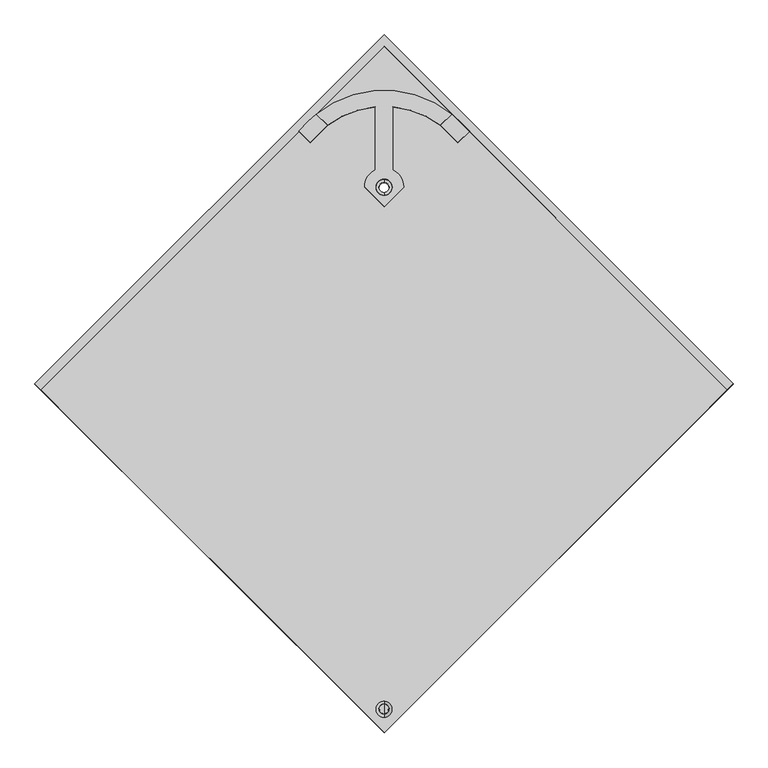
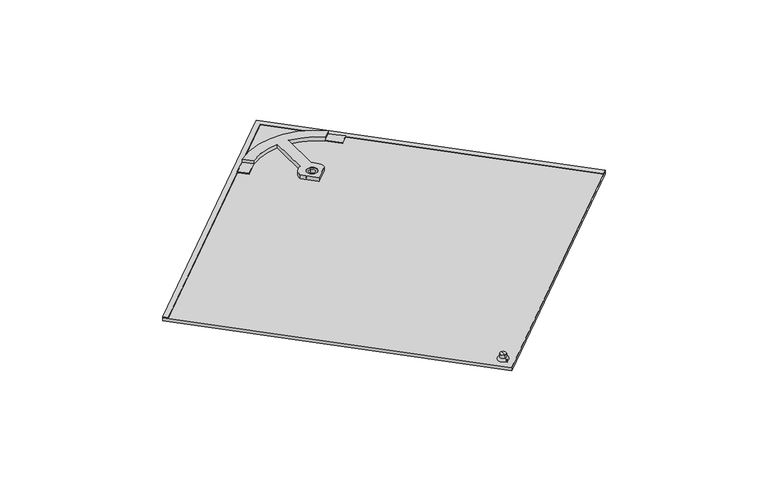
"""IFC4 building model written with IfcOpenShell, lengths in millimetres: proxy geometry, Roofing_Panels_SunStyle_Tile_Shingle-Customisable : Shingle Customisable - Black."""

import ifcopenshell
import ifcopenshell.guid

model = None  # the IFC model being written
_history = None  # IfcOwnerHistory: only IFC2X3 demands one
_inside = {}  # id of a spatial element -> (the spatial element, [elements in it])
_under = {}  # id of a project, library or spatial element -> (it, [spatial elements below it])
_declared = {}  # id of a project -> (the project, [libraries it declares])
_typed = {}  # id of a type object -> (the type object, [elements of that type])
_made_of = {}  # id of a material, layer set ... -> (it, [elements and type objects made of it])


def new_model(schema):
    """Start an empty IFC model of exactly this schema.

    Asked for "IFC4X3", IfcOpenShell would pick the latest addendum, in which some entities
    have other attributes; the version numbers below select the first issue.
    IFC2X3 requires an IfcOwnerHistory on every rooted entity: one is made here for all.
    """
    global model, _history
    if schema == "IFC4X3":
        model = ifcopenshell.file(schema_version=(4, 3, 0, 0))
    else:
        model = ifcopenshell.file(schema=schema)
    _inside.clear()
    _under.clear()
    _declared.clear()
    _typed.clear()
    _made_of.clear()
    _history = None
    if model.schema == "IFC2X3":
        org = make("IfcOrganization", Name="unknown")
        user = make(
            "IfcPersonAndOrganization",
            ThePerson=make("IfcPerson", FamilyName="unknown"),
            TheOrganization=org,
        )
        app = make(
            "IfcApplication",
            ApplicationDeveloper=org,
            Version="unknown",
            ApplicationFullName="unknown",
            ApplicationIdentifier="unknown",
        )
        _history = make(
            "IfcOwnerHistory",
            OwningUser=user,
            OwningApplication=app,
            ChangeAction="ADDED",
            CreationDate=0,
        )
    return model


def make(cls, **values):
    """One entity of the class cls with the attributes given. An attribute that is None is left unset."""
    return model.create_entity(
        cls, **{name: value for name, value in values.items() if value is not None}
    )


def rooted(cls, **values):
    """An entity with a GlobalId (a new one), such as an element, a storey or a relation."""
    return make(cls, GlobalId=ifcopenshell.guid.new(), OwnerHistory=_history, **values)


def si_unit(unit_type, name, prefix=None):
    """IfcSIUnit, for example si_unit("LENGTHUNIT", "METRE", prefix="MILLI")."""
    return make("IfcSIUnit", UnitType=unit_type, Prefix=prefix, Name=name)


def assignment(units):
    """IfcUnitAssignment: the units of a project."""
    return None if units is None else make("IfcUnitAssignment", Units=units)


def point(xyz):
    """IfcCartesianPoint."""
    return None if xyz is None else make("IfcCartesianPoint", Coordinates=xyz)


def direction(xyz):
    """IfcDirection."""
    return None if xyz is None else make("IfcDirection", DirectionRatios=xyz)


def frame(location, z_axis=None, x_axis=None):
    """IfcAxis2Placement3D, a coordinate frame: its origin and axes. An axis left out is left unset."""
    return make(
        "IfcAxis2Placement3D",
        Location=point(location),
        Axis=direction(z_axis),
        RefDirection=direction(x_axis),
    )


def frame_2d(location, x_axis=None):
    """IfcAxis2Placement2D, a coordinate frame in the plane: its origin and x axis."""
    return make(
        "IfcAxis2Placement2D", Location=point(location), RefDirection=direction(x_axis)
    )


def origin():
    """The frame at (0, 0, 0) with its axes left unset."""
    return frame((0.0, 0.0, 0.0))


def place(relative_to, where):
    """IfcLocalPlacement: puts the frame where relative to a parent placement (None: the world)."""
    return make(
        "IfcLocalPlacement", PlacementRelTo=relative_to, RelativePlacement=where
    )


def context(
    kind, dimensions, precision=None, world=None, true_north=None, identifier=None
):
    """IfcGeometricRepresentationContext, for example the 3D "Model" context."""
    return make(
        "IfcGeometricRepresentationContext",
        ContextIdentifier=identifier,
        ContextType=kind,
        CoordinateSpaceDimension=dimensions,
        Precision=precision,
        WorldCoordinateSystem=world,
        TrueNorth=true_north,
    )


def project(units=None, contexts=None):
    """IfcProject with its units and contexts."""
    return rooted(
        "IfcProject",
        Name="project",
        RepresentationContexts=contexts,
        UnitsInContext=assignment(units),
    )


def spatial(cls, under=None, at=None, **own):
    """A site, building, storey or space (cls), placed at a placement, below another one or the project."""
    s = rooted(cls, ObjectPlacement=at, **own)
    if under is not None:
        _under.setdefault(under.id(), (under, []))[1].append(s)
    return s


def polyline(points):
    """IfcPolyline through the points."""
    return make("IfcPolyline", Points=[point(p) for p in points])


def circle_curve(where, radius):
    """IfcCircle in the frame where."""
    return make("IfcCircle", Position=where, Radius=radius)


def ellipse_curve(where, semi_axis1, semi_axis2):
    """IfcEllipse in the frame where."""
    return make(
        "IfcEllipse", Position=where, SemiAxis1=semi_axis1, SemiAxis2=semi_axis2
    )


def trimmed(basis, trim1, trim2, sense, master):
    """IfcTrimmedCurve: the piece of a basis curve between two trims."""
    return make(
        "IfcTrimmedCurve",
        BasisCurve=basis,
        Trim1=trim1,
        Trim2=trim2,
        SenseAgreement=sense,
        MasterRepresentation=master,
    )


def segment(curve, same_sense, transition):
    """IfcCompositeCurveSegment."""
    return make(
        "IfcCompositeCurveSegment",
        Transition=transition,
        SameSense=same_sense,
        ParentCurve=curve,
    )


def composite_curve(segments, self_intersect=None):
    """IfcCompositeCurve: segments joined end to end."""
    return make("IfcCompositeCurve", Segments=segments, SelfIntersect=self_intersect)


def outline(outer, holes=None, kind="AREA"):
    """IfcArbitraryClosedProfileDef: a profile drawn as a closed curve; with holes, ...WithVoids."""
    if holes is None:
        return make("IfcArbitraryClosedProfileDef", ProfileType=kind, OuterCurve=outer)
    return make(
        "IfcArbitraryProfileDefWithVoids",
        ProfileType=kind,
        OuterCurve=outer,
        InnerCurves=holes,
    )


def extrude(swept, where, along, depth):
    """IfcExtrudedAreaSolid: the profile swept, set in the frame where, extruded along a direction by depth."""
    return make(
        "IfcExtrudedAreaSolid",
        SweptArea=swept,
        Position=where,
        ExtrudedDirection=direction(along),
        Depth=depth,
    )


def shape(context_of_items, identifier, shape_type, items):
    """IfcShapeRepresentation: the items that make up one representation, for example the "Body"."""
    return make(
        "IfcShapeRepresentation",
        ContextOfItems=context_of_items,
        RepresentationIdentifier=identifier,
        RepresentationType=shape_type,
        Items=items,
    )


def source(mapping_origin, context_of_items, identifier, shape_type, items):
    """IfcRepresentationMap: a shape defined once, which mapped items show again and again."""
    return make(
        "IfcRepresentationMap",
        MappingOrigin=mapping_origin,
        MappedRepresentation=shape(context_of_items, identifier, shape_type, items),
    )


def transform(
    local_origin,
    x_axis=None,
    y_axis=None,
    z_axis=None,
    scale=None,
    scale2=None,
    scale3=None,
    uniform=True,
):
    """IfcCartesianTransformationOperator3D, or its non-uniform kind. x_axis, y_axis, z_axis: its Axis1, 2, 3."""
    if uniform:
        return make(
            "IfcCartesianTransformationOperator3D",
            Axis1=direction(x_axis),
            Axis2=direction(y_axis),
            LocalOrigin=point(local_origin),
            Scale=scale,
            Axis3=direction(z_axis),
        )
    return make(
        "IfcCartesianTransformationOperator3DnonUniform",
        Axis1=direction(x_axis),
        Axis2=direction(y_axis),
        LocalOrigin=point(local_origin),
        Scale=scale,
        Axis3=direction(z_axis),
        Scale2=scale2,
        Scale3=scale3,
    )


def mapped(mapping_source, mapping_target):
    """IfcMappedItem: shows the shape of a source again, moved by a transform."""
    return make(
        "IfcMappedItem", MappingSource=mapping_source, MappingTarget=mapping_target
    )


def made_of(thing, what):
    """Note that an element or type object is made of a material, layer set ...; save() writes the relation."""
    if what is not None:
        _made_of.setdefault(what.id(), (what, []))[1].append(thing)
    return thing


def element(
    cls,
    number,
    at=None,
    inside=None,
    cuts=None,
    type_object=None,
    material=None,
    context=None,
    identifier="Body",
    shape_type=None,
    held_by="IfcProductDefinitionShape",
    body=None,
    shapes=None,
    **own,
):
    """One element of the class cls, such as IfcWall. Its Tag is "e" and its number.

    at: its placement. inside: the storey or other place that contains it. cuts: it is an
    opening in that element (IfcRelVoidsElement). A single representation is given by context,
    identifier, shape_type and body (its items); several are given by shapes. held_by: the class
    of the entity that holds the representations. save() writes the other relations.
    """
    e = rooted(cls, Tag="e%d" % number, ObjectPlacement=at, **own)
    if body is not None:
        shapes = [shape(context, identifier, shape_type, body)]
    if shapes is not None:
        e.Representation = make(held_by, Representations=shapes)
    if inside is not None:
        _inside.setdefault(inside.id(), (inside, []))[1].append(e)
    if cuts is not None:
        rooted(
            "IfcRelVoidsElement", RelatingBuildingElement=cuts, RelatedOpeningElement=e
        )
    if type_object is not None:
        _typed.setdefault(type_object.id(), (type_object, []))[1].append(e)
    return made_of(e, material)


def aggregate(whole, parts):
    """IfcRelAggregates: a whole, such as a stair, and the parts it consists of."""
    return rooted("IfcRelAggregates", RelatingObject=whole, RelatedObjects=parts)


def save(model, path):
    """Write the relations noted so far, then the file.

    IfcRelAggregates (storeys below a building ...), IfcRelContainedInSpatialStructure (elements
    in a storey), IfcRelDefinesByType, IfcRelAssociatesMaterial and IfcRelDeclares: one each for
    every whole, place, type object, material and project.
    """
    for whole, parts in _under.values():
        aggregate(whole, parts)
    for where, things in _inside.values():
        rooted(
            "IfcRelContainedInSpatialStructure",
            RelatedElements=things,
            RelatingStructure=where,
        )
    for kind, things in _typed.values():
        rooted("IfcRelDefinesByType", RelatedObjects=things, RelatingType=kind)
    for what, things in _made_of.values():
        rooted("IfcRelAssociatesMaterial", RelatedObjects=things, RelatingMaterial=what)
    for by, libraries in _declared.values():
        rooted("IfcRelDeclares", RelatingContext=by, RelatedDefinitions=libraries)
    model.write(path)


def plane_surface(at):
    """IfcPlane: the flat surface through the origin of the frame at, square to its z axis."""
    return make("IfcPlane", Position=at)


def cylinder_surface(at, radius):
    """IfcCylindricalSurface: all points at the distance radius from the z axis of the frame at."""
    return make("IfcCylindricalSurface", Position=at, Radius=radius)


def revolved_surface(curve, axis_point, axis_direction):
    """IfcSurfaceOfRevolution: the curve turned about the line through axis_point along axis_direction."""
    return make(
        "IfcSurfaceOfRevolution",
        SweptCurve=make("IfcArbitraryOpenProfileDef", ProfileType="CURVE", Curve=curve),
        AxisPosition=make("IfcAxis1Placement", Location=point(axis_point), Axis=direction(axis_direction)),
    )


def advanced_brep(points, edges, surfaces, faces):
    """IfcAdvancedBrep: a solid bounded by faces that lie on surfaces and meet in shared edges.

    An edge is (start, end): straight between two places in points (the first is 0);
    or (start, end, curve); or (start, end, curve, False) where it runs against its curve.
    A face is (place in surfaces, loops), or (place, loops, False) where it looks against
    its surface's normal. A loop lists edges by number (the first is 1), with a minus sign
    where the edge is run from its end to its start. The first loop is the outer one.
    """
    corners = [point(p) for p in points]
    vertices = [make("IfcVertexPoint", VertexGeometry=c) for c in corners]
    made = []
    for start, end, *more in edges:
        made.append(
            make(
                "IfcEdgeCurve",
                EdgeStart=vertices[start],
                EdgeEnd=vertices[end],
                EdgeGeometry=more[0] if more else make("IfcPolyline", Points=[corners[start], corners[end]]),
                SameSense=more[1] if len(more) > 1 else True,
            )
        )
    hull = []
    for where, loops, *sense in faces:
        bounds = []
        for j, loop in enumerate(loops):
            ring = [make("IfcOrientedEdge", EdgeElement=made[abs(k) - 1], Orientation=k > 0) for k in loop]
            bounds.append(
                make(
                    "IfcFaceOuterBound" if j == 0 else "IfcFaceBound",
                    Bound=make("IfcEdgeLoop", EdgeList=ring),
                    Orientation=True,
                )
            )
        hull.append(make("IfcAdvancedFace", Bounds=bounds, FaceSurface=surfaces[where], SameSense=sense[0] if sense else True))
    return make("IfcAdvancedBrep", Outer=make("IfcClosedShell", CfsFaces=hull))


def generic_models_13d44858(model_context):
    return source(origin(), model_context, "Body", "SolidModel", [
        advanced_brep(
        [(0.0, -497.8894675, 26.2215343), (0.0, -484.556387, 25.9982384), (0.0, -484.9246961, 4.0063691), (0.0, -498.2577766, 4.229665), (0.0, -503.3886964, 26.3136327), (0.0, -479.0571582, 25.90614), (0.0, -498.4397001, 31.2274395), (0.0, -483.8388371, 30.9829114), (0.0, -491.0052401, 39.1080636), (0.0, -483.7048087, 38.9857996), (0.0, -498.3056716, 39.2303277), (0.0, -491.5912364, 4.118017)],
        [
            (0, 1, circle_curve(frame((0.0, -491.2229273, 26.1098864), z_axis=(0.0, -0.016745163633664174, -0.9998597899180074), x_axis=(0.0, 0.9998597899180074, -0.016745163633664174)), 6.6674751)),
            (1, 2),
            (2, 3, circle_curve(frame((0.0, -491.5912364, 4.118017), z_axis=(0.0, 0.016745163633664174, 0.9998597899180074), x_axis=(0.0, 0.9998597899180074, -0.016745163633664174)), 6.6674751)),
            (3, 0),
            (1, 0, circle_curve(frame((0.0, -491.2229273, 26.1098864), z_axis=(0.0, -0.016745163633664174, -0.9998597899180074), x_axis=(0.0, 0.9998597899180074, -0.016745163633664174)), 6.6674751)),
            (3, 2, circle_curve(frame((0.0, -491.5912364, 4.118017), z_axis=(0.0, 0.016745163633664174, 0.9998597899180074), x_axis=(0.0, 0.9998597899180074, -0.016745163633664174)), 6.6674751)),
            (4, 5, circle_curve(frame((0.0, -491.2229273, 26.1098864), z_axis=(0.0, -0.016745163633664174, -0.9998597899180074), x_axis=(0.0, 0.9998597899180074, -0.016745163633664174)), 12.1674751)),
            (5, 1),
            (0, 4),
            (5, 4, circle_curve(frame((0.0, -491.2229273, 26.1098864), z_axis=(0.0, -0.016745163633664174, -0.9998597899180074), x_axis=(0.0, 0.9998597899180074, -0.016745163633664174)), 12.1674751)),
            (6, 7, circle_curve(frame((0.0, -491.1392686, 31.1051755), z_axis=(0.0, -0.016745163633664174, -0.9998597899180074), x_axis=(0.0, 0.9998597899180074, -0.016745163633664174)), 7.3014552)),
            (7, 5, circle_curve(frame((0.0, -484.1430351, 25.90614), z_axis=(-1.0, 0.0, 0.0), x_axis=(0.0, -1.0, 0.0)), 5.0858769)),
            (4, 6, circle_curve(frame((0.0, -498.3056716, 26.1433289), z_axis=(-1.0, 0.0, 0.0), x_axis=(0.0, 0.9994391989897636, -0.03348563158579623)), 5.0858769)),
            (7, 6, circle_curve(frame((0.0, -491.1392686, 31.1051755), z_axis=(0.0, -0.016745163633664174, -0.9998597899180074), x_axis=(0.0, 0.9998597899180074, -0.016745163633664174)), 7.3014552)),
            (8, 9),
            (9, 10, circle_curve(frame((0.0, -491.0052401, 39.1080636), z_axis=(0.0, 0.016745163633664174, 0.9998597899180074), x_axis=(0.0, 0.9998597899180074, -0.016745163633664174)), 7.3014552)),
            (10, 8),
            (10, 9, circle_curve(frame((0.0, -491.0052401, 39.1080636), z_axis=(0.0, 0.016745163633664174, 0.9998597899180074), x_axis=(0.0, 0.9998597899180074, -0.016745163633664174)), 7.3014552)),
            (2, 11),
            (11, 3),
            (9, 7),
            (6, 10),
        ],
        [
            cylinder_surface(frame((0.0, -491.0052401, 39.1080636), z_axis=(0.0, 0.016745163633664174, 0.9998597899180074), x_axis=(0.0, 0.9998597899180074, -0.016745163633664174)), 6.6674751),
            plane_surface(frame((0.0, -491.2229273, 26.1098864), z_axis=(0.0, -0.016745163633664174, -0.9998597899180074), x_axis=(0.0, 0.9998597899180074, -0.016745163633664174))),
            revolved_surface(trimmed(ellipse_curve(frame((0.0, -484.1430351, 25.90614), z_axis=(1.0, 0.0, 0.0), x_axis=(0.0, -1.0, 0.0)), 5.0858769, 5.0858769), [point((0.0, -479.0571582, 25.90614))], [point((0.0, -483.8388371, 30.9829114))], True, "CARTESIAN"), (0.0, -491.0052401, 39.1080636), (0.0, 0.016745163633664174, 0.9998597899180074)),
            plane_surface(frame((0.0, -491.0052401, 39.1080636), z_axis=(0.0, 0.016745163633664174, 0.9998597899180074), x_axis=(0.0, 0.9998597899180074, -0.016745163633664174))),
            plane_surface(frame((0.0, -491.5912364, 4.118017), z_axis=(0.0, -0.016745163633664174, -0.9998597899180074), x_axis=(0.0, 0.9998597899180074, -0.016745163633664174))),
            cylinder_surface(frame((0.0, -491.0052401, 39.1080636), z_axis=(0.0, 0.016745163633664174, 0.9998597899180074), x_axis=(0.0, 0.9998597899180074, -0.016745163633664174)), 7.3014552),
        ],
        [
            (0, [[1, 2, 3, 4]]),
            (0, [[5, -4, 6, -2]]),
            (1, [[7, 8, -1, 9]]),
            (1, [[10, -9, -5, -8]]),
            (2, [[11, 12, -7, 13]]),
            (2, [[14, -13, -10, -12]]),
            (3, [[15, 16, 17]]),
            (3, [[-17, 18, -15]]),
            (4, [[-3, 19, 20]]),
            (4, [[-6, -20, -19]]),
            (5, [[-16, 21, -11, 22]]),
            (5, [[-18, -22, -14, -21]]),
        ],
    ),
        advanced_brep(
        [(0.0, 288.6523212, 20.2441668), (0.0, 303.9851221, 19.9873805), (0.0, 308.4844908, 19.9120273), (0.0, 284.1529525, 20.31952), (0.0, 288.384399, 4.2464102), (0.0, 303.7171991, 3.9896239), (0.0, 283.8850299, 4.3217634), (0.0, 308.2165682, 3.9142707)],
        [
            (0, 1, circle_curve(frame((0.0, 296.3187217, 20.1157737), z_axis=(0.0, -0.016745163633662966, -0.9998597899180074), x_axis=(0.0, 0.9998597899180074, -0.016745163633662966)), 7.6674755)),
            (1, 2),
            (2, 3, circle_curve(frame((0.0, 296.3187217, 20.1157737), z_axis=(0.0, 0.016745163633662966, 0.9998597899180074), x_axis=(0.0, 0.9998597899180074, -0.016745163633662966)), 12.1674751)),
            (3, 0),
            (1, 0, circle_curve(frame((0.0, 296.3187217, 20.1157737), z_axis=(0.0, -0.016745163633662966, -0.9998597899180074), x_axis=(0.0, 0.9998597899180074, -0.016745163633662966)), 7.6674755)),
            (3, 2, circle_curve(frame((0.0, 296.3187217, 20.1157737), z_axis=(0.0, 0.016745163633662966, 0.9998597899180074), x_axis=(0.0, 0.9998597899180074, -0.016745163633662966)), 12.1674751)),
            (4, 5, circle_curve(frame((0.0, 296.050799, 4.118017), z_axis=(0.0, -0.016745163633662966, -0.9998597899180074), x_axis=(0.0, 0.9998597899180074, -0.016745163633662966)), 7.6674751)),
            (5, 1),
            (0, 4),
            (5, 4, circle_curve(frame((0.0, 296.050799, 4.118017), z_axis=(0.0, -0.016745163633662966, -0.9998597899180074), x_axis=(0.0, 0.9998597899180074, -0.016745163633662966)), 7.6674751)),
            (6, 7, circle_curve(frame((0.0, 296.050799, 4.118017), z_axis=(0.0, -0.016745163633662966, -0.9998597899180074), x_axis=(0.0, 0.9998597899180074, -0.016745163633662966)), 12.1674751)),
            (7, 5),
            (4, 6),
            (7, 6, circle_curve(frame((0.0, 296.050799, 4.118017), z_axis=(0.0, -0.016745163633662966, -0.9998597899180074), x_axis=(0.0, 0.9998597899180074, -0.016745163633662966)), 12.1674751)),
            (2, 7),
            (6, 3),
        ],
        [
            plane_surface(frame((0.0, 296.3187217, 20.1157737), z_axis=(0.0, 0.016745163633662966, 0.9998597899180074), x_axis=(0.0, 0.9998597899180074, -0.016745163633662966))),
            revolved_surface(polyline([(0.0, 303.98512174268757, 19.987380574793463), (0.0, 303.7171991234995, 3.9896238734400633)]), (0.0, 296.3187217, 20.1157737), (0.0, 0.016745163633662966, 0.9998597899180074)),
            plane_surface(frame((0.0, 296.050799, 4.118017), z_axis=(0.0, -0.016745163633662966, -0.9998597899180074), x_axis=(0.0, 0.9998597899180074, -0.016745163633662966))),
            cylinder_surface(frame((0.0, 296.3187217, 20.1157737), z_axis=(0.0, 0.016745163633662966, 0.9998597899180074), x_axis=(0.0, 0.9998597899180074, -0.016745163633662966)), 12.1674751),
        ],
        [
            (0, [[1, 2, 3, 4]]),
            (0, [[5, -4, 6, -2]]),
            (1, [[7, 8, -1, 9]]),
            (1, [[10, -9, -5, -8]]),
            (2, [[11, 12, -7, 13]]),
            (2, [[14, -13, -10, -12]]),
            (3, [[-3, 15, -11, 16]]),
            (3, [[-6, -16, -14, -15]]),
        ],
    ),
        extrude(outline(polyline([(0.0, -11.9999999), (0.0, 0.0), (733.0016898, 1e-07), (733.1044713, 733.0016827), (745.1044711, 733.0000001), (745.0000073, -11.9999999), (0.0, -11.9999999)])), frame((518.346803, -8.5982257, 16.4476231), z_axis=(0.0, 0.01674516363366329, 0.9998597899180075), x_axis=(-0.7071563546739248, 0.7069580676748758, -0.011839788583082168)), (0.0, 0.0, 1.0), 1.5),
        extrude(outline(polyline([(870.0332217, 0.0), (870.1376855, -745.0), (125.1376782, -745.0), (125.0332144, 0.0), (870.0332217, 0.0)]), holes=[composite_curve([segment(trimmed(circle_curve(frame_2d((150.1392209, -719.9949513)), 8.0), [point((144.4819701, -714.3384937))], [point((155.7964718, -725.6514089))], True, "CARTESIAN"), True, "CONTINUOUS"), segment(trimmed(circle_curve(frame_2d((150.1392209, -719.9949513)), 8.0), [point((155.7964718, -725.6514089))], [point((144.4819701, -714.3384937))], True, "CARTESIAN"), True, "CONTINUOUS")], self_intersect=False), composite_curve([segment(trimmed(circle_curve(frame_2d((707.2474416, -162.8086075)), 12.0), [point((698.7615653, -154.3239211))], [point((715.7333178, -171.293294))], True, "CARTESIAN"), True, "CONTINUOUS"), segment(trimmed(circle_curve(frame_2d((707.2474416, -162.8086075)), 12.0), [point((715.7333178, -171.293294))], [point((698.7615653, -154.3239211))], True, "CARTESIAN"), True, "CONTINUOUS")], self_intersect=False)]), frame((-615.2495215, -88.6323676, 10.2869442), z_axis=(0.0, 0.01674516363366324, 0.9998597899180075), x_axis=(0.707156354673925, 0.7069580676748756, -0.011839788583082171)), (0.0, 0.0, 1.0), 7.5),
        advanced_brep(
        [(-101.9290841, 407.1226031, 19.4867359), (-84.8459083, 390.0418225, 19.7727965), (-13.2015123, 417.9337327, 19.3056764), (-13.2015123, 323.0547468, 20.8946634), (-29.2909403, 296.8506271, 21.3335172), (0.0984877, 267.4653197, 21.8256479), (29.4879158, 296.8506271, 21.3335172), (13.3984877, 323.0547468, 20.8946634), (13.3984877, 417.9337327, 19.3056764), (85.0428837, 390.0418225, 19.7727965), (102.1260595, 407.1226031, 19.4867359), (-11.9015123, 296.8506271, 21.3335172), (12.0984877, 296.8506271, 21.3335172), (-101.9290841, 406.9551514, 9.488138), (102.1260595, 406.9551514, 9.488138), (114.3494568, 395.9202286, 9.6729456), (129.0452011, 381.228605, 9.9189937), (111.3675316, 363.5534141, 10.2150092), (85.041686, 389.8755684, 9.7741786), (13.3984877, 417.7662811, 9.3070785), (13.3984877, 322.8872952, 10.8960655), (29.4879158, 296.6831755, 11.3349193), (0.0984877, 267.2978681, 11.8270501), (-29.2909403, 296.6831755, 11.3349193), (-13.2015123, 322.8872952, 10.8960655), (-13.2015123, 417.7662811, 9.3070785), (-84.8459083, 389.8743709, 9.7741986), (-111.1705561, 363.5534141, 10.2150092), (-128.8482256, 381.228605, 9.9189937), (-114.1524814, 395.9202286, 9.6729456), (-11.9015123, 296.6831755, 11.3349193), (12.0984877, 296.6831755, 11.3349193), (102.1260595, 406.9970144, 11.9877875), (-101.9290841, 406.9970144, 11.9877875), (129.0452011, 381.2704679, 12.4186432), (114.3494568, 395.9620915, 12.172595), (85.0428837, 389.9162338, 12.2738481), (111.3675316, 363.595277, 12.7146586), (-128.8482256, 381.2704679, 12.4186432), (-111.1705561, 363.595277, 12.7146586), (-84.8447106, 389.9174314, 12.273828), (-114.1524814, 395.9620915, 12.172595)],
        [
            (0, 1),
            (1, 2, circle_curve(frame((0.0984877, 277.845704, 21.6518023), z_axis=(0.0, -0.01674516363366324, -0.9998597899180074), x_axis=(1.0, 0.0, 0.0)), 140.737522)),
            (2, 3),
            (3, 4, circle_curve(frame((0.0984877, 296.8506271, 21.3335172), z_axis=(0.0, 0.01674516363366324, 0.9998597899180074), x_axis=(1.0, 0.0, 0.0)), 29.3894281)),
            (4, 5),
            (5, 6),
            (6, 7, circle_curve(frame((0.0984877, 296.8506271, 21.3335172), z_axis=(0.0, 0.01674516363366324, 0.9998597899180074), x_axis=(1.0, 0.0, 0.0)), 29.3894281)),
            (7, 8),
            (8, 9, circle_curve(frame((0.0984877, 277.845704, 21.6518023), z_axis=(0.0, -0.01674516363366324, -0.9998597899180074), x_axis=(1.0, 0.0, 0.0)), 140.737522)),
            (9, 10),
            (10, 0, circle_curve(frame((0.0984877, 281.8527303, 21.5846946), z_axis=(0.0, 0.01674516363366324, 0.9998597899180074), x_axis=(1.0, 0.0, 0.0)), 161.57527)),
            (11, 12, circle_curve(frame((0.0984877, 296.8506271, 21.3335172), z_axis=(0.0, -0.01674516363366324, -0.9998597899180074), x_axis=(1.0, 0.0, 0.0)), 12.0)),
            (12, 11, circle_curve(frame((0.0984877, 296.8506271, 21.3335172), z_axis=(0.0, -0.01674516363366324, -0.9998597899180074), x_axis=(1.0, 0.0, 0.0)), 12.0)),
            (13, 14, circle_curve(frame((0.0984877, 281.6852786, 11.5860967), z_axis=(0.0, -0.01674516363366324, -0.9998597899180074), x_axis=(1.0, 0.0, 0.0)), 161.57527)),
            (14, 15, circle_curve(frame((0.0984877, 281.6852786, 11.5860967), z_axis=(0.0, -0.01674516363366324, -0.9998597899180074), x_axis=(1.0, 0.0, 0.0)), 161.57527)),
            (15, 16),
            (16, 17),
            (17, 18),
            (18, 19, circle_curve(frame((0.0984877, 277.6782524, 11.6532044), z_axis=(0.0, 0.01674516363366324, 0.9998597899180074), x_axis=(1.0, 0.0, 0.0)), 140.737522)),
            (19, 20),
            (20, 21, circle_curve(frame((0.0984877, 296.6831755, 11.3349193), z_axis=(0.0, -0.01674516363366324, -0.9998597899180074), x_axis=(1.0, 0.0, 0.0)), 29.3894281)),
            (21, 22),
            (22, 23),
            (23, 24, circle_curve(frame((0.0984877, 296.6831755, 11.3349193), z_axis=(0.0, -0.01674516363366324, -0.9998597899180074), x_axis=(1.0, 0.0, 0.0)), 29.3894281)),
            (24, 25),
            (25, 26, circle_curve(frame((0.0984877, 277.6782524, 11.6532044), z_axis=(0.0, 0.01674516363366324, 0.9998597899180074), x_axis=(1.0, 0.0, 0.0)), 140.737522)),
            (26, 27),
            (27, 28),
            (28, 29),
            (29, 13, circle_curve(frame((0.0984877, 281.6852786, 11.5860967), z_axis=(0.0, -0.01674516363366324, -0.9998597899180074), x_axis=(-1.0, 0.0, 0.0)), 161.57527)),
            (30, 31, circle_curve(frame((0.0984877, 296.6831755, 11.3349193), z_axis=(0.0, 0.01674516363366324, 0.9998597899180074), x_axis=(1.0, 0.0, 0.0)), 12.0)),
            (31, 30, circle_curve(frame((0.0984877, 296.6831755, 11.3349193), z_axis=(0.0, 0.01674516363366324, 0.9998597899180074), x_axis=(1.0, 0.0, 0.0)), 12.0)),
            (2, 25),
            (24, 3),
            (23, 4),
            (22, 5),
            (21, 6),
            (20, 7),
            (19, 8),
            (10, 32),
            (32, 14),
            (13, 33),
            (33, 0),
            (11, 30),
            (31, 12),
            (34, 35),
            (35, 32, circle_curve(frame((0.0984877, 281.7271415, 14.0857462), z_axis=(0.0, 0.01674516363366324, 0.9998597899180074), x_axis=(1.0, 0.0, 0.0)), 161.57527)),
            (32, 36),
            (36, 37),
            (37, 34),
            (38, 39),
            (39, 40),
            (40, 33),
            (33, 41, circle_curve(frame((0.0984877, 281.7271415, 14.0857462), z_axis=(0.0, 0.01674516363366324, 0.9998597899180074), x_axis=(-1.0, 0.0, 0.0)), 161.57527)),
            (41, 38),
            (34, 16),
            (15, 35),
            (37, 17),
            (36, 18),
            (38, 28),
            (27, 39),
            (26, 40),
            (29, 41),
            (40, 1),
            (9, 36),
        ],
        [
            plane_surface(frame((-101.9290841, 407.1226031, 19.4867359), z_axis=(0.0, 0.01674516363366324, 0.9998597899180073), x_axis=(0.7071067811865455, -0.7070076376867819, 0.011840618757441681))),
            plane_surface(frame((-101.9290841, 406.9551514, 9.488138), z_axis=(0.0, -0.01674516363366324, -0.9998597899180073), x_axis=(-0.7071067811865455, 0.7070076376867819, -0.011840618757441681))),
            plane_surface(frame((-13.2015123, 417.9337327, 19.3056764), z_axis=(-1.0000000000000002, 0.0, 0.0), x_axis=(0.0, -0.016745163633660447, -0.9998597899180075))),
            cylinder_surface(frame((0.0984877, 296.6831755, 11.3349193), z_axis=(0.0, 0.01674516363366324, 0.9998597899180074), x_axis=(1.0, 0.0, 0.0)), 29.3894281),
            plane_surface(frame((-29.2909403, 296.8506271, 21.3335172), z_axis=(-0.7071067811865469, -0.7070076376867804, 0.01184061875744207), x_axis=(0.0, -0.016745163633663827, -0.9998597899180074))),
            plane_surface(frame((0.0984877, 267.4653197, 21.8256479), z_axis=(0.7071067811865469, -0.7070076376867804, 0.011840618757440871), x_axis=(0.0, -0.016745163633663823, -0.9998597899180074))),
            plane_surface(frame((13.3984877, 323.0547468, 20.8946634), z_axis=(1.0000000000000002, 0.0, 0.0), x_axis=(0.0, -0.01674516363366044, -0.9998597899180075))),
            cylinder_surface(frame((0.0984877, 281.6852786, 11.5860967), z_axis=(0.0, 0.01674516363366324, 0.9998597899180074), x_axis=(1.0, 0.0, 0.0)), 161.57527),
            revolved_surface(polyline([(12.0984877, 296.6831755, 11.3349193), (12.0984877, 296.85062713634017, 21.333517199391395)]), (0.0984877, 296.6831755, 11.3349193), (0.0, -0.01674516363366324, -0.9998597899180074)),
            plane_surface(frame((129.0452011, 381.2704679, 12.4186432), z_axis=(0.0, 0.01674516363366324, 0.9998597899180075), x_axis=(-0.7071563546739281, 0.7069580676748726, -0.011839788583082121))),
            plane_surface(frame((129.0452011, 381.2704679, 12.4186432), z_axis=(0.7070572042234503, 0.7070572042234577, -0.01184144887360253), x_axis=(0.0, -0.016745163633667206, -0.9998597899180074))),
            plane_surface(frame((111.3675316, 363.595277, 12.7146586), z_axis=(0.7071067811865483, -0.7070076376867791, 0.011840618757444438), x_axis=(0.0, -0.016745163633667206, -0.9998597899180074))),
            plane_surface(frame((85.041686, 389.9174314, 12.273828), z_axis=(-0.7071067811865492, -0.7070076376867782, 0.011840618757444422), x_axis=(0.0, -0.016745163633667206, -0.9998597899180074))),
            plane_surface(frame((-128.8482256, 381.2704679, 12.4186432), z_axis=(-0.7071067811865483, -0.7070076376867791, 0.011840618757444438), x_axis=(0.0, -0.016745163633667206, -0.9998597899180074))),
            plane_surface(frame((-111.1705561, 363.595277, 12.7146586), z_axis=(0.7071067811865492, -0.7070076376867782, 0.011840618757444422), x_axis=(0.0, -0.016745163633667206, -0.9998597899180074))),
            cylinder_surface(frame((0.0984877, 281.6852786, 11.5860967), z_axis=(0.0, 0.01674516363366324, 0.9998597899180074), x_axis=(-1.0, 0.0, 0.0)), 161.57527),
            plane_surface(frame((-114.1524814, 395.9620915, 12.172595), z_axis=(-0.7070572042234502, 0.7070572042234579, -0.011841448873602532), x_axis=(0.0, -0.016745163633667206, -0.9998597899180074))),
            plane_surface(frame((-101.9290841, 407.1226031, 19.4867359), z_axis=(-0.7071067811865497, -0.7070076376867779, 0.01184061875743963), x_axis=(0.0, -0.01674516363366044, -0.9998597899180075))),
            plane_surface(frame((85.0428837, 390.0418225, 19.7727965), z_axis=(0.7071067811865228, -0.7070076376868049, 0.011840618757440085), x_axis=(0.0, -0.016745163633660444, -0.9998597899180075))),
            revolved_surface(polyline([(140.8360097, 277.6782524, 11.6532044), (140.8360097, 277.8457040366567, 21.651802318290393)]), (0.0984877, 277.6782524, 11.6532044), (0.0, -0.01674516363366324, -0.9998597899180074)),
        ],
        [
            (0, [[1, 2, 3, 4, 5, 6, 7, 8, 9, 10, 11], [12, 13]]),
            (1, [[14, 15, 16, 17, 18, 19, 20, 21, 22, 23, 24, 25, 26, 27, 28, 29, 30], [31, 32]]),
            (2, [[-3, 33, -25, 34]]),
            (3, [[-4, -34, -24, 35]]),
            (4, [[-5, -35, -23, 36]]),
            (5, [[-6, -36, -22, 37]]),
            (3, [[-7, -37, -21, 38]]),
            (6, [[-8, -38, -20, 39]]),
            (7, [[-11, 40, 41, -14, 42, 43]]),
            (8, [[-12, 44, -32, 45]]),
            (8, [[-13, -45, -31, -44]]),
            (9, [[46, 47, 48, 49, 50]]),
            (9, [[51, 52, 53, 54, 55]]),
            (10, [[-46, 56, -16, 57]]),
            (11, [[-50, 58, -17, -56]]),
            (7, [[-47, -57, -15, -41]]),
            (12, [[-49, 59, -18, -58]]),
            (13, [[-51, 60, -28, 61]]),
            (14, [[-52, -61, -27, 62]]),
            (15, [[-54, -42, -30, 63]]),
            (16, [[-55, -63, -29, -60]]),
            (17, [[-1, -43, -53, 64]]),
            (18, [[-10, 65, -48, -40]]),
            (19, [[-2, -64, -62, -26, -33]]),
            (19, [[-9, -39, -19, -59, -65]]),
        ],
    ),
    ])


if __name__ == "__main__":
    model = new_model("IFC4")
    model_context = context("Model", 3, world=origin())
    ifc_project = project(units=[si_unit("LENGTHUNIT", "METRE", prefix="MILLI")], contexts=[model_context])
    site = spatial("IfcSite", under=ifc_project)
    building = spatial("IfcBuilding", under=site)
    placement = place(None, origin())
    generic_models_shape = generic_models_13d44858(model_context)
    element("IfcBuildingElementProxy", 1, Name="Roofing_Panels_SunStyle_Tile_Shingle-Customisable : Shingle Customisable - Black", ObjectType="Roofing_Panels_SunStyle_Tile_Shingle-Customisable : Shingle Customisable - Black", at=placement, inside=building, context=model_context, shape_type="MappedRepresentation", body=[
        mapped(generic_models_shape, transform((0.0, 0.0, 0.0), x_axis=(1.0, 0.0, 0.0), y_axis=(0.0, 1.0, 0.0), z_axis=(0.0, 0.0, 1.0))),
    ])
    save(model, "model.ifc")
